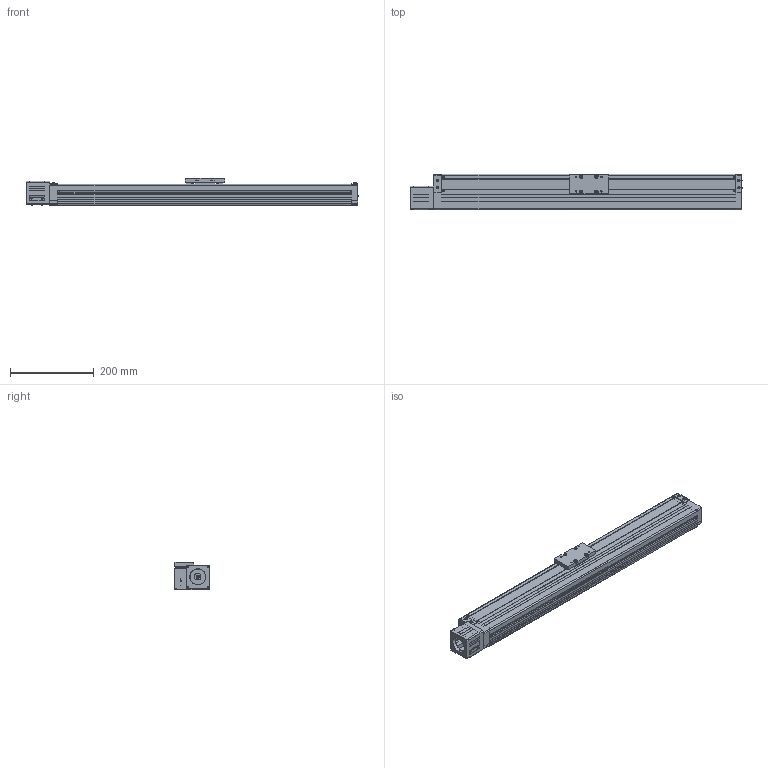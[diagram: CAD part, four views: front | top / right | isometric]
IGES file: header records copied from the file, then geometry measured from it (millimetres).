
Global section: file name: No Iges File Name specified; native system: AutoDesk Inventor R10; preprocessor: AutoDesk Inventor Iges Exporter R10; author: No Author specified; organization: No Organization specified; date: 20110701.172532; units: millimetre
Bounding box: 791 x 85 x 65 mm (x, y, z)
Surface area: 496394.2 mm2 (no closed solid volume)
Topology: 0 solids, 0 shells, 962 faces, 6002 edges, 5982 vertices
Faces by surface type: bspline 962
